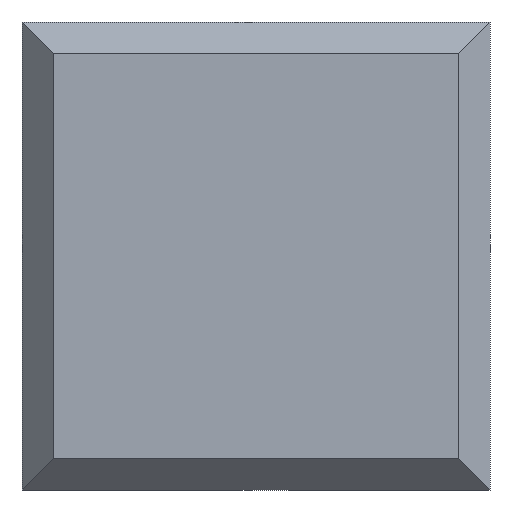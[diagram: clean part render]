
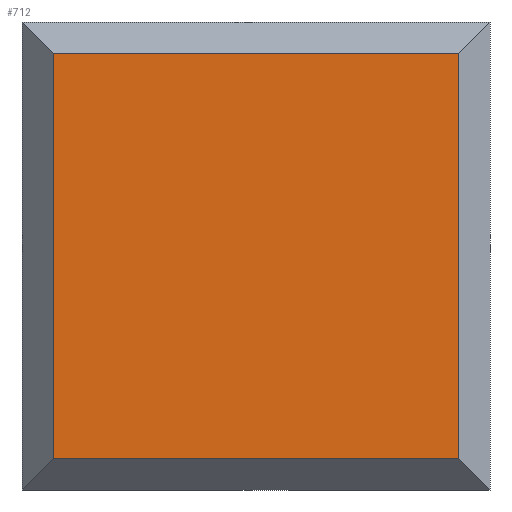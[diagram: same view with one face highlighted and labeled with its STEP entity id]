
A CAD part, front view. The second image highlights one B-rep face of the part: STEP entity #712.
In plain terms, the highlighted planar face has unit normal (0, -1, 0).
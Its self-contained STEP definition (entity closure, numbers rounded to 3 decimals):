
#1 = EDGE_CURVE ( 'NONE', #872, #502, #941, .T. ) ;
#112 = EDGE_CURVE ( 'NONE', #511, #745, #716, .T. ) ;
#216 = EDGE_CURVE ( 'NONE', #745, #872, #584, .T. ) ;
#285 = EDGE_LOOP ( 'NONE', ( #897, #351, #397, #599 ) ) ;
#307 = VECTOR ( 'NONE', #483, 1000. ) ;
#312 = CARTESIAN_POINT ( 'NONE',  ( 6.5, -6., 6.5 ) ) ;
#317 = DIRECTION ( 'NONE',  ( 0., -1., 0. ) ) ;
#341 = DIRECTION ( 'NONE',  ( 0., 0., -1. ) ) ;
#344 = VECTOR ( 'NONE', #341, 1000. ) ;
#348 = DIRECTION ( 'NONE',  ( 0., 0., -1. ) ) ;
#351 = ORIENTED_EDGE ( 'NONE', *, *, #879, .T. ) ;
#374 = CARTESIAN_POINT ( 'NONE',  ( 6.5, -6., 7.5 ) ) ;
#397 = ORIENTED_EDGE ( 'NONE', *, *, #1, .F. ) ;
#466 = FACE_OUTER_BOUND ( 'NONE', #285, .T. ) ;
#483 = DIRECTION ( 'NONE',  ( 1., 0., 0. ) ) ;
#489 = CARTESIAN_POINT ( 'NONE',  ( 7.5, -6., 6.5 ) ) ;
#502 = VERTEX_POINT ( 'NONE', #864 ) ;
#511 = VERTEX_POINT ( 'NONE', #550 ) ;
#550 = CARTESIAN_POINT ( 'NONE',  ( -6.5, -6., 6.5 ) ) ;
#559 = VECTOR ( 'NONE', #348, 1000. ) ;
#568 = CARTESIAN_POINT ( 'NONE',  ( -6.5, -6., 6.5 ) ) ;
#570 = LINE ( 'NONE', #568, #344 ) ;
#584 = LINE ( 'NONE', #374, #559 ) ;
#599 = ORIENTED_EDGE ( 'NONE', *, *, #216, .F. ) ;
#627 = PLANE ( 'NONE',  #845 ) ;
#712 = ADVANCED_FACE ( 'NONE', ( #466 ), #627, .T. ) ;
#716 = LINE ( 'NONE', #489, #307 ) ;
#720 = CARTESIAN_POINT ( 'NONE',  ( 6.5, -6., -6.5 ) ) ;
#727 = DIRECTION ( 'NONE',  ( -1., 0., 0. ) ) ;
#729 = CARTESIAN_POINT ( 'NONE',  ( 7.5, -6., -6.5 ) ) ;
#745 = VERTEX_POINT ( 'NONE', #895 ) ;
#782 = VECTOR ( 'NONE', #727, 1000. ) ;
#830 = DIRECTION ( 'NONE',  ( -1., 0., 0. ) ) ;
#845 = AXIS2_PLACEMENT_3D ( 'NONE', #312, #317, #830 ) ;
#864 = CARTESIAN_POINT ( 'NONE',  ( -6.5, -6., -6.5 ) ) ;
#872 = VERTEX_POINT ( 'NONE', #720 ) ;
#879 = EDGE_CURVE ( 'NONE', #511, #502, #570, .T. ) ;
#895 = CARTESIAN_POINT ( 'NONE',  ( 6.5, -6., 6.5 ) ) ;
#897 = ORIENTED_EDGE ( 'NONE', *, *, #112, .F. ) ;
#941 = LINE ( 'NONE', #729, #782 ) ;
